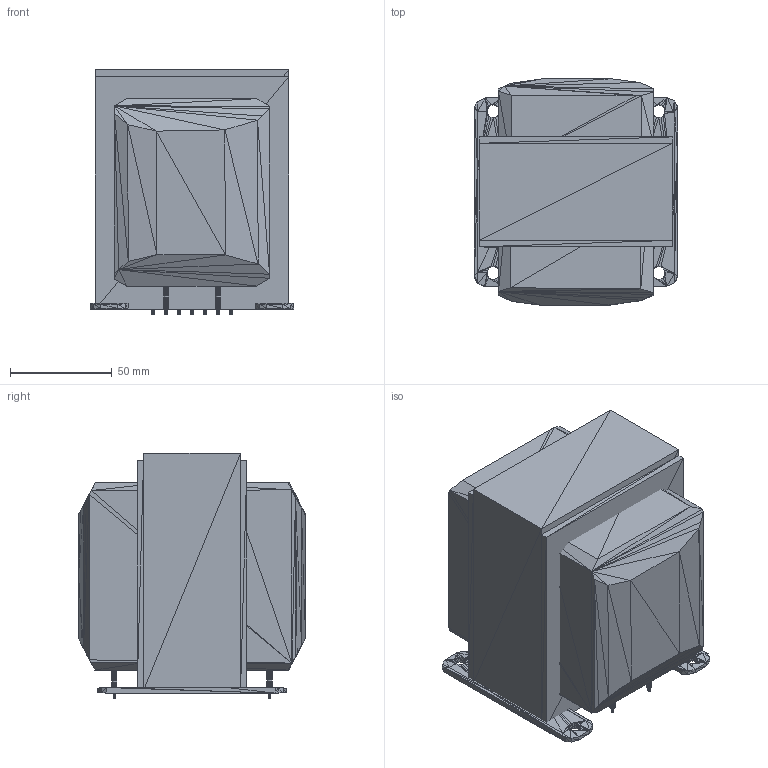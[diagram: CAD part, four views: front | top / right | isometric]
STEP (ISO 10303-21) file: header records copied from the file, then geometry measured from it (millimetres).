
FILE_DESCRIPTION(('HOOPS Exchange Step'),'2;1');
FILE_NAME('***.stp');
FILE_SCHEMA( ('AP242_MANAGED_MODEL_BASED_3D_ENGINEERING_MIM_LF {1 0 10303 442 1 1 4 }') );
Length unit declared in the file: inch
Products named in the file (25): XFRM290HX_2; XFRM290HX_3; XFRM290HX_4; XFRM290HX_5; XFRM290HX_6; XFRM290HX_7; XFRM290HX_8; XFRM290HX_9; XFRM290HX_10; XFRM290HX_11; XFRM290HX_12; XFRM290HX_13; XFRM290HX_14; XFRM290HX_15; XFRM290HX_16; XFRM290HX_17; XFRM290HX_18; XFRM290HX_19; XFRM290HX_20; XFRM290HX_21; XFRM290HX_22; XFRM290HX_23; XFRM290HX_24; XFRM290HX_25; XFRM290HX
Assembly tree (24 placements, depth 2):
  XFRM290HX
    XFRM290HX_2
    XFRM290HX_3
    XFRM290HX_4
    XFRM290HX_5
    XFRM290HX_6
    XFRM290HX_7
    XFRM290HX_8
    XFRM290HX_9
    XFRM290HX_10
    XFRM290HX_11
    XFRM290HX_12
    XFRM290HX_13
    XFRM290HX_14
    XFRM290HX_15
    XFRM290HX_16
    XFRM290HX_17
    XFRM290HX_18
    XFRM290HX_19
    XFRM290HX_20
    XFRM290HX_21
    XFRM290HX_22
    XFRM290HX_23
    XFRM290HX_24
    XFRM290HX_25
Bounding box: 99.74 x 111.14 x 120.42 mm (x, y, z)
Surface area: 144324.1 mm2
Topology: 24 solids, 24 shells, 2366 faces, 3549 edges, 1223 vertices
Faces by surface type: plane 2366
Entity records: 47330 total; most frequent: DIRECTION 8381, CARTESIAN_POINT 7188, ORIENTED_EDGE 7098, VECTOR 3549, LINE 3549, EDGE_CURVE 3549, AXIS2_PLACEMENT_3D 2416, PLANE 2366
